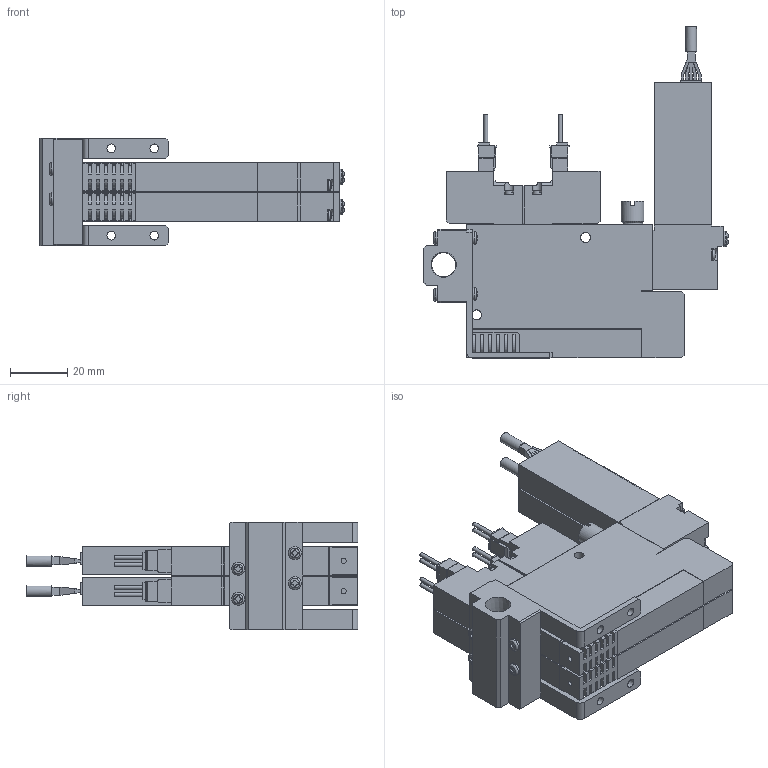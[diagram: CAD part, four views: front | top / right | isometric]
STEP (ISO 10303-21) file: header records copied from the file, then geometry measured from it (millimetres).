
FILE_DESCRIPTION(('STEP AP203'),'1');
FILE_NAME('5SS202_3D.stp','2024-09-04T09:29:53',(' '),(' '),'Spatial InterOp 3D',' ',' ');
FILE_SCHEMA(('CONFIG_CONTROL_DESIGN'));
Length unit declared in the file: millimetre
Products named in the file (5): BSC1M※※V9※5SS202; Solenoid valve S; Pressure Sensor V9; Unit-S; BaseMS20R
Assembly tree (7 placements, depth 2):
  BSC1M※※V9※5SS202
    Solenoid valve S  x2
    Pressure Sensor V9  x2
    Unit-S  x2
    BaseMS20R
Bounding box: 106.35 x 115.8 x 37.5 mm (x, y, z)
Volume: 120937.3 mm3; surface area: 49061.8 mm2
Topology: 7 solids, 7 shells, 1111 faces, 3049 edges, 2014 vertices
Faces by surface type: plane 820, cylinder 251, sphere 14, torus 14, cone 12
Full cylindrical faces by diameter (mm): 1.4 x8, 1.8 x2, 2.5 x4, 3 x12, 3.5 x16, 3.8 x2, 4 x2, 4.134 x4, 4.5 x8, 5.5 x4, 7 x2, 7.7 x2, 8 x2, 8.422 x1
Entity records: 20354 total; most frequent: CARTESIAN_POINT 4274, ORIENTED_EDGE 3256, DIRECTION 3180, EDGE_CURVE 1628, LINE 1220, VECTOR 1220, VERTEX_POINT 1114, AXIS2_PLACEMENT_3D 980
